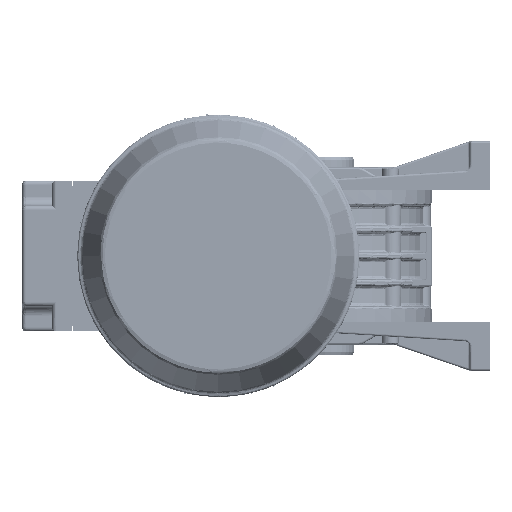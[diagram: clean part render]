
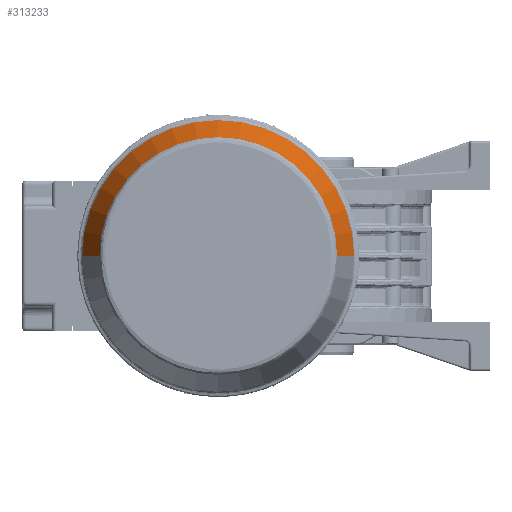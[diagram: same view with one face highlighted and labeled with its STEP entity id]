
A CAD part, left-side view. The second image highlights one B-rep face of the part: STEP entity #313233.
In plain terms, the highlighted conical face has half-angle 21.801 degrees and reference radius 67.5 mm.
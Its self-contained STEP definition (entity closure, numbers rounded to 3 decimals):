
#103190 = VERTEX_POINT ( 'NONE', #111827 ) ;
#103196 = EDGE_CURVE ( 'NONE', #103190, #103232, #111943, .T. ) ;
#103232 = VERTEX_POINT ( 'NONE', #112507 ) ;
#111827 = CARTESIAN_POINT ( 'NONE',  ( -292.114, -9.054, 0. ) ) ;
#111934 = DIRECTION ( 'NONE',  ( -1., 0., 0. ) ) ;
#111937 = CARTESIAN_POINT ( 'NONE',  ( -292.114, 50., 0. ) ) ;
#111939 = AXIS2_PLACEMENT_3D ( 'NONE', #111937, #111934, #112181 ) ;
#111943 = CIRCLE ( 'NONE', #111939, 59.054 ) ;
#112181 = DIRECTION ( 'NONE',  ( 0., 0., 1. ) ) ;
#112507 = CARTESIAN_POINT ( 'NONE',  ( -292.114, 50., 59.054 ) ) ;
#226472 = CARTESIAN_POINT ( 'NONE',  ( -292.114, 109.054, 0. ) ) ;
#226475 = DIRECTION ( 'NONE',  ( 0.928, 0.371, 0. ) ) ;
#226479 = VECTOR ( 'NONE', #226475, 1000. ) ;
#226480 = CARTESIAN_POINT ( 'NONE',  ( -271., 117.5, 0. ) ) ;
#226481 = LINE ( 'NONE', #226480, #226479 ) ;
#226736 = CIRCLE ( 'NONE', #226848, 67.5 ) ;
#226741 = CARTESIAN_POINT ( 'NONE',  ( -271., -17.5, 0. ) ) ;
#226742 = DIRECTION ( 'NONE',  ( 0.928, -0.371, 0. ) ) ;
#226781 = VECTOR ( 'NONE', #226742, 1000. ) ;
#226782 = CARTESIAN_POINT ( 'NONE',  ( -271., -17.5, 0. ) ) ;
#226784 = LINE ( 'NONE', #226782, #226781 ) ;
#226845 = DIRECTION ( 'NONE',  ( 0., -1., 0. ) ) ;
#226846 = DIRECTION ( 'NONE',  ( -1., 0., 0. ) ) ;
#226847 = CARTESIAN_POINT ( 'NONE',  ( -271., 50., 0. ) ) ;
#226848 = AXIS2_PLACEMENT_3D ( 'NONE', #226847, #226846, #226845 ) ;
#227079 = DIRECTION ( 'NONE',  ( 0., 0., 1. ) ) ;
#227081 = DIRECTION ( 'NONE',  ( -1., 0., 0. ) ) ;
#227083 = CARTESIAN_POINT ( 'NONE',  ( -292.114, 50., 0. ) ) ;
#227085 = AXIS2_PLACEMENT_3D ( 'NONE', #227083, #227081, #227079 ) ;
#227095 = CIRCLE ( 'NONE', #227085, 59.054 ) ;
#227569 = CARTESIAN_POINT ( 'NONE',  ( -271., 117.5, 0. ) ) ;
#277026 = AXIS2_PLACEMENT_3D ( 'NONE', #277031, #277201, #277199 ) ;
#277028 = FACE_OUTER_BOUND ( 'NONE', #314233, .T. ) ;
#277031 = CARTESIAN_POINT ( 'NONE',  ( -271., 50., 0. ) ) ;
#277033 = CONICAL_SURFACE ( 'NONE', #277026, 67.5, 0.381 ) ;
#277199 = DIRECTION ( 'NONE',  ( 0., 1., 0. ) ) ;
#277201 = DIRECTION ( 'NONE',  ( 1., 0., 0. ) ) ;
#313233 = ADVANCED_FACE ( 'NONE', ( #277028 ), #277033, .T. ) ;
#314091 = EDGE_CURVE ( 'NONE', #103190, #314093, #226784, .T. ) ;
#314093 = VERTEX_POINT ( 'NONE', #226741 ) ;
#314101 = ORIENTED_EDGE ( 'NONE', *, *, #314105, .T. ) ;
#314105 = EDGE_CURVE ( 'NONE', #314093, #314383, #226736, .T. ) ;
#314151 = EDGE_CURVE ( 'NONE', #314155, #314383, #226481, .T. ) ;
#314155 = VERTEX_POINT ( 'NONE', #226472 ) ;
#314184 = ORIENTED_EDGE ( 'NONE', *, *, #314195, .F. ) ;
#314195 = EDGE_CURVE ( 'NONE', #103232, #314155, #227095, .T. ) ;
#314233 = EDGE_LOOP ( 'NONE', ( #314239, #314247, #314101, #314394, #314184 ) ) ;
#314239 = ORIENTED_EDGE ( 'NONE', *, *, #103196, .F. ) ;
#314247 = ORIENTED_EDGE ( 'NONE', *, *, #314091, .T. ) ;
#314383 = VERTEX_POINT ( 'NONE', #227569 ) ;
#314394 = ORIENTED_EDGE ( 'NONE', *, *, #314151, .F. ) ;
